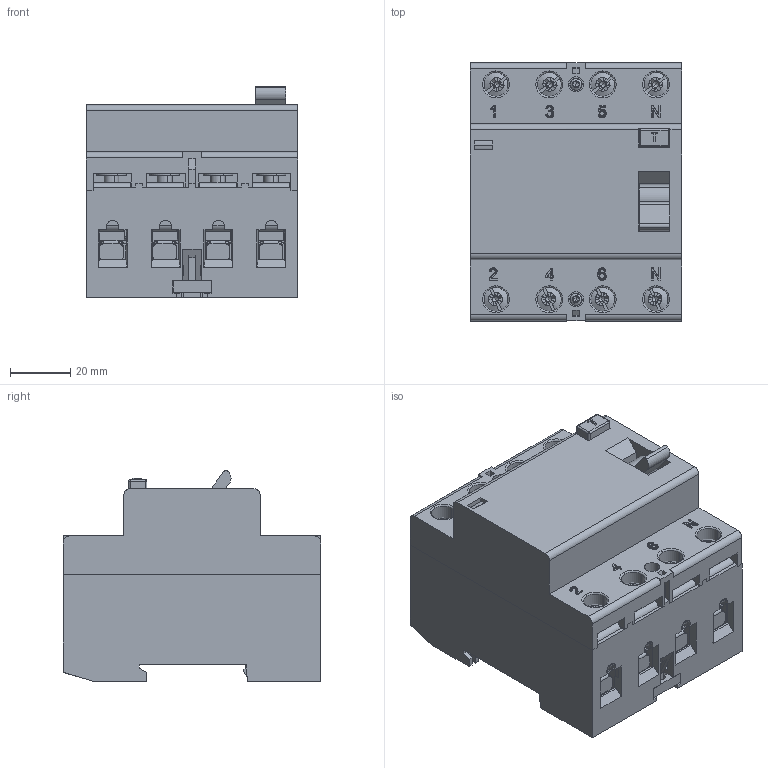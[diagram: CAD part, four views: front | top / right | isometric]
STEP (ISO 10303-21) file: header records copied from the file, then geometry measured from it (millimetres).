
FILE_DESCRIPTION (( 'STEP AP214' ), '1' );
FILE_NAME ('OptiDin DM63 4P 80-100À.STEP', '2017-02-21T07:13:22', ( 'Ãóëÿåâ Âëàäèìèð Íèêîëàåâè÷' ), ( '' ), 'SwSTEP 2.0', 'SolidWorks 2012', '' );
FILE_SCHEMA (( 'AUTOMOTIVE_DESIGN' ));
Length unit declared in the file: millimetre
Products named in the file (11): ðó÷êà; âûâîä êîðîòêèé; êîëîäêà óïðîù¸ííî; âèíò çàòÿæíîé â êîëîäêó; âûâîä ñ ñåðåáðîì; âèíò ñ øåñòèãðàííèêîì; 膫闀罻 蠈嚦; Çàùåëêà; Êîðïóñ 4Ð; ﾎ魵瑙韃 4ﾐ; OptiDin DM63 4P 80-100À
Assembly tree (31 placements, depth 2):
  OptiDin DM63 4P 80-100À
    ﾎ魵瑙韃 4ﾐ
    Êîðïóñ 4Ð
    Çàùåëêà
    膫闀罻 蠈嚦
    âèíò ñ øåñòèãðàííèêîì  x2
    âûâîä ñ ñåðåáðîì  x4
    âèíò çàòÿæíîé â êîëîäêó  x8
    êîëîäêà óïðîù¸ííî  x8
    âûâîä êîðîòêèé  x4
    ðó÷êà
Bounding box: 70 x 85.3 x 69.7 mm (x, y, z)
Volume: 279749.2 mm3; surface area: 89276.1 mm2
Topology: 31 solids, 31 shells, 2526 faces, 6863 edges, 4270 vertices
Faces by surface type: plane 1328, cylinder 669, torus 165, bspline 147, sphere 137, cone 80
Entity records: 54784 total; most frequent: CARTESIAN_POINT 15580, ORIENTED_EDGE 8204, DIRECTION 8029, EDGE_CURVE 4102, AXIS2_PLACEMENT_3D 2722, VECTOR 2585, LINE 2585, VERTEX_POINT 2529
